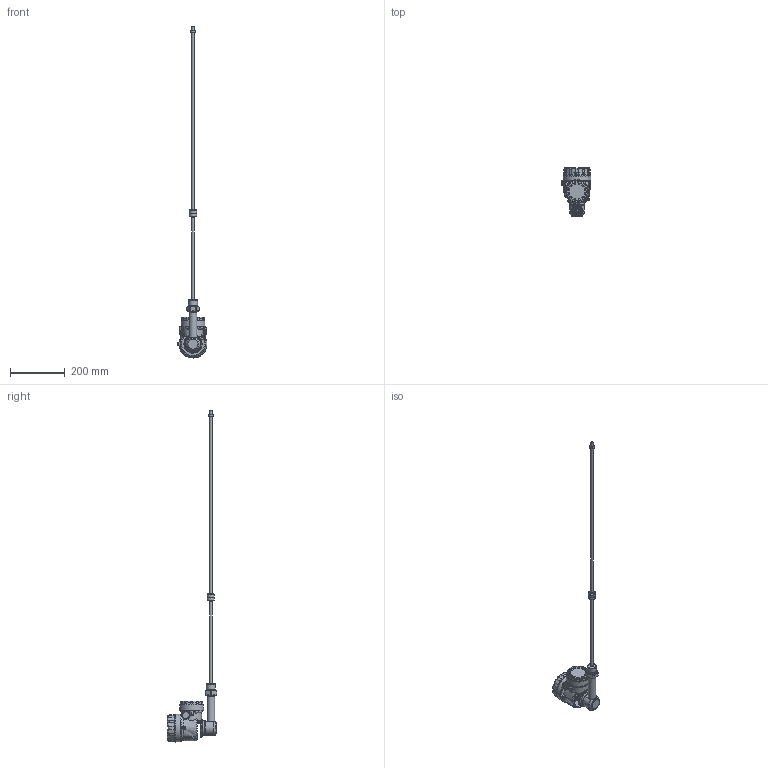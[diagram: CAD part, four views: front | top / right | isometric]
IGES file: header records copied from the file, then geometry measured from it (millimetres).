
Global section: file name: M_RN_Bszer_1,5col; native system: Autodesk Inventor 2015; preprocessor: unknown; author: aantal; date: 20150529.141632; units: millimetre
Bounding box: 109.65 x 179.84 x 1215.45 mm (x, y, z)
Volume: 1258657.3 mm3; surface area: 200511 mm2
Topology: 16 solids, 23 shells, 1677 faces, 4033 edges, 2369 vertices
Faces by surface type: bspline 1677
